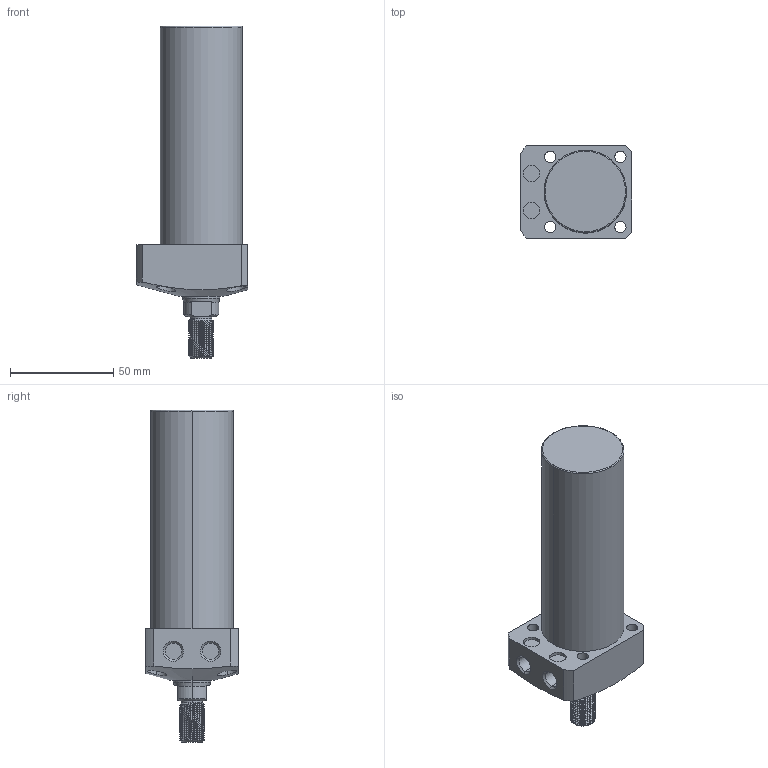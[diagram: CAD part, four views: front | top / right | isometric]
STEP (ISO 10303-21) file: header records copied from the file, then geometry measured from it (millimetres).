
FILE_DESCRIPTION (( 'STEP AP203' ), '1' );
FILE_NAME ('CLL-040CT-080.STEP', '2020-01-08T09:07:51', ( '' ), ( '' ), 'SwSTEP 2.0', 'SolidWorks 2015', '' );
FILE_SCHEMA (( 'CONFIG_CONTROL_DESIGN' ));
Length unit declared in the file: millimetre
Products named in the file (1): CLL-040CT-080
Bounding box: 54 x 45 x 161 mm (x, y, z)
Volume: 186880.7 mm3; surface area: 26176 mm2
Topology: 1 solids, 1 shells, 114 faces, 290 edges, 189 vertices
Faces by surface type: cylinder 71, plane 23, cone 16, torus 2, bspline 2
Entity records: 5827 total; most frequent: CARTESIAN_POINT 3178, ORIENTED_EDGE 580, DIRECTION 498, EDGE_CURVE 290, AXIS2_PLACEMENT_3D 198, VERTEX_POINT 189, EDGE_LOOP 133, ADVANCED_FACE 114
